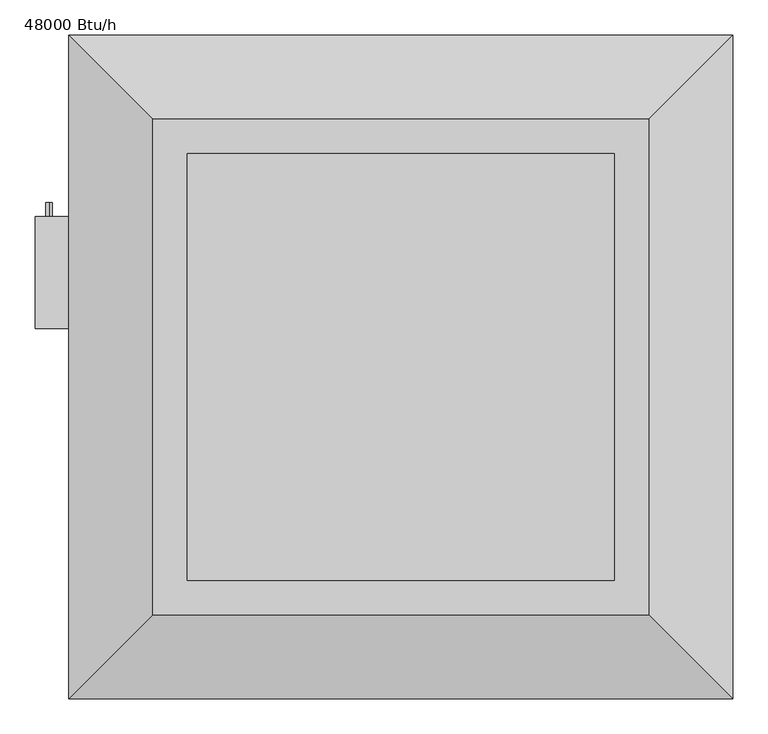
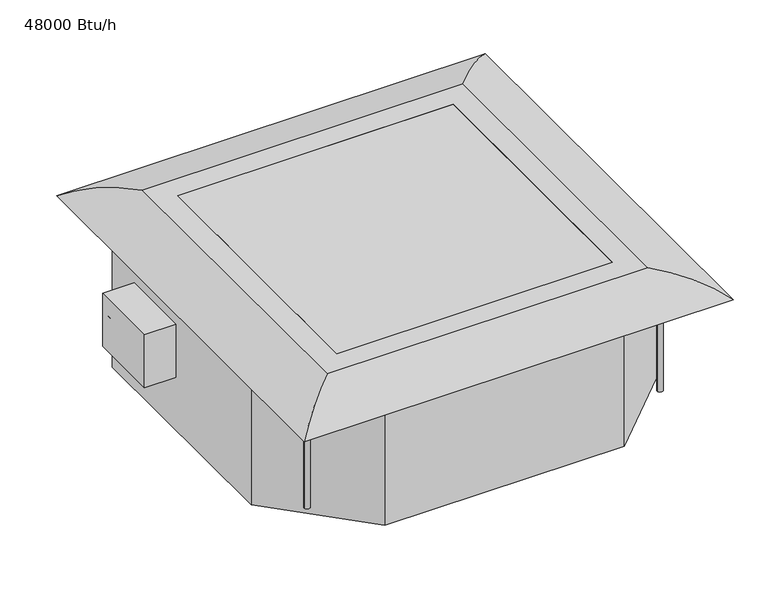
"""IFC4 building model written with IfcOpenShell, lengths in millimetres: proxy geometry, Lennox-VRF-Ceiling_Compact-Cassette-V33A-2P_Series : 48000 Btu/h."""

from ifc_helpers import new_model, si_unit, point, frame, frame_2d, origin, origin_with_axes, place, context, project, spatial, polyline, circle_curve, ellipse_curve, trimmed, segment, composite_curve, outline, extrude, source, transform, mapped, element, save
from ifc_brep_helpers import plane_surface, cylinder_surface, advanced_brep


def proxy_48000_btu_h_e7defc70(model_context):
    return source(origin(), model_context, "Body", "SolidModel", [
        extrude(outline(composite_curve([segment(trimmed(circle_curve(frame_2d((-130.0, -502.5)), 4.7625), [point((-125.2375, -502.5))], [point((-134.7625, -502.5))], False, "CARTESIAN"), True, "CONTINUOUS"), segment(trimmed(circle_curve(frame_2d((-130.0, -502.5)), 4.7625), [point((-134.7625, -502.5))], [point((-125.2375, -502.5))], False, "CARTESIAN"), True, "CONTINUOUS")], self_intersect=False)), frame((0.0, 214.8, 0.0), z_axis=(0.0, 1.0, 0.0), x_axis=(0.0, 0.0, 1.0)), (0.0, 0.0, 1.0), 20.0),
        extrude(outline(polyline([(-522.5, 54.8), (-522.5, 214.8), (-452.5, 214.8), (-452.5, 54.8), (-522.5, 54.8)])), frame((0.0, 0.0, -178.0), z_axis=(0.0, 0.0, 1.0), x_axis=(1.0, 0.0, 0.0)), (0.0, 0.0, 1.0), 124.0),
        extrude(outline(composite_curve([segment(trimmed(circle_curve(frame_2d((0.0, -7.9375)), 7.9375), [point((0.0, -15.875))], [point((0.0, 0.0))], False, "CARTESIAN"), True, "CONTINUOUS"), segment(trimmed(circle_curve(frame_2d((0.0, -7.9375)), 7.9375), [point((0.0, 0.0))], [point((0.0, -15.875))], False, "CARTESIAN"), True, "CONTINUOUS")], self_intersect=False)), frame((-327.841199, 324.97702, -146.0), z_axis=(-0.20791169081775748, 0.9781476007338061, 0.0), x_axis=(0.0, 0.0, -1.0)), (0.0, 0.0, 1.0), 50.0),
        extrude(outline(composite_curve([segment(trimmed(circle_curve(frame_2d((-155.0, 285.5)), 15.875), [point((-155.0, 301.375))], [point((-155.0, 269.625))], False, "CARTESIAN"), True, "CONTINUOUS"), segment(trimmed(circle_curve(frame_2d((-155.0, 285.5)), 15.875), [point((-155.0, 269.625))], [point((-155.0, 301.375))], False, "CARTESIAN"), True, "CONTINUOUS")], self_intersect=False)), frame((0.0, 360.7767013, 0.0), z_axis=(0.0, 1.0, 0.0), x_axis=(0.0, 0.0, 1.0)), (0.0, 0.0, 1.0), 59.7232987),
        advanced_brep(
        [(-384.15, -339.5, -21.0), (-396.85, -339.5, -21.0), (-384.15, -339.5, -264.0), (-396.85, -339.5, -264.0), (-384.15, -339.5, -41.0), (-396.85, -339.5, -41.0), (-396.85, -339.5, -47.35), (-384.15, -339.5, -47.35), (-367.9974747, -369.5, -41.0), (-341.8875034, -343.3900287, -41.0), (-391.3849781, -293.892554, -41.0), (-420.5, -323.007576, -41.0), (-420.5, -339.5, -41.0), (-390.5, -369.5, -41.0), (-367.9974747, -369.5, -47.35), (-390.5, -369.5, -47.35), (-420.5, -339.5, -47.35), (-420.5, -323.007576, -47.35), (-391.3849781, -293.892554, -47.35), (-341.8875034, -343.3900287, -47.35)],
        [
            (0, 1, circle_curve(frame((-390.5, -339.5, -21.0), z_axis=(0.0, 0.0, 1.0), x_axis=(-1.0, 0.0, 0.0)), 6.35)),
            (1, 0, circle_curve(frame((-390.5, -339.5, -21.0), z_axis=(0.0, 0.0, 1.0), x_axis=(-1.0, 0.0, 0.0)), 6.35)),
            (2, 3, circle_curve(frame((-390.5, -339.5, -264.0), z_axis=(0.0, 0.0, -1.0), x_axis=(-1.0, 0.0, 0.0)), 6.35)),
            (3, 2, circle_curve(frame((-390.5, -339.5, -264.0), z_axis=(0.0, 0.0, -1.0), x_axis=(-1.0, 0.0, 0.0)), 6.35)),
            (0, 4),
            (4, 5, circle_curve(frame((-390.5, -339.5, -41.0), z_axis=(0.0, 0.0, 1.0), x_axis=(-1.0, 0.0, 0.0)), 6.35)),
            (5, 1),
            (3, 6),
            (6, 7, circle_curve(frame((-390.5, -339.5, -47.35), z_axis=(0.0, 0.0, -1.0), x_axis=(-1.0, 0.0, 0.0)), 6.35)),
            (7, 2),
            (5, 4, circle_curve(frame((-390.5, -339.5, -41.0), z_axis=(0.0, 0.0, 1.0), x_axis=(-1.0, 0.0, 0.0)), 6.35)),
            (7, 6, circle_curve(frame((-390.5, -339.5, -47.35), z_axis=(0.0, 0.0, -1.0), x_axis=(-1.0, 0.0, 0.0)), 6.35)),
            (8, 9),
            (9, 10),
            (10, 11),
            (11, 12),
            (12, 13),
            (13, 8),
            (14, 15),
            (15, 16),
            (16, 17),
            (17, 18),
            (18, 19),
            (19, 14),
            (8, 14),
            (19, 9),
            (18, 10),
            (17, 11),
            (16, 12),
            (15, 13),
        ],
        [
            plane_surface(frame((-396.85, -339.5, -21.0), z_axis=(0.0, 0.0, 1.0), x_axis=(0.0, -1.0, 0.0))),
            plane_surface(frame((-396.85, -339.5, -264.0), z_axis=(0.0, 0.0, -1.0), x_axis=(0.0, 1.0, 0.0))),
            cylinder_surface(frame((-390.5, -339.5, -264.0), z_axis=(0.0, 0.0, 1.0), x_axis=(-1.0, 0.0, 0.0)), 6.35),
            plane_surface(frame((343.5046828, -342.2177851, -41.0), z_axis=(0.0, 0.0, 1.0), x_axis=(-0.707106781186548, -0.7071067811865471, 0.0))),
            plane_surface(frame((343.5046828, -342.2177851, -47.35), z_axis=(0.0, 0.0, -1.0), x_axis=(0.707106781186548, 0.7071067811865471, 0.0))),
            plane_surface(frame((-367.9974747, -369.5, -41.0), z_axis=(0.7071067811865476, -0.7071067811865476, 0.0), x_axis=(0.0, 0.0, -1.0))),
            plane_surface(frame((-341.8875034, -343.3900287, -41.0), z_axis=(0.7071067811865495, 0.7071067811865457, 0.0), x_axis=(0.0, 0.0, -1.0))),
            plane_surface(frame((-391.3849781, -293.892554, -41.0), z_axis=(-0.7071067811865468, 0.7071067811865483, 0.0), x_axis=(0.0, 0.0, -1.0))),
            plane_surface(frame((-420.5, -323.007576, -41.0), z_axis=(-1.0, 0.0, 0.0), x_axis=(0.0, 0.0, -1.0))),
            plane_surface(frame((-420.5, -339.5, -41.0), z_axis=(-0.7071067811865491, -0.707106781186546, 0.0), x_axis=(0.0, 0.0, -1.0))),
            plane_surface(frame((-390.5, -369.5, -41.0), z_axis=(0.0, -1.0, 0.0), x_axis=(0.0, 0.0, -1.0))),
        ],
        [
            (0, [[1, 2]]),
            (1, [[3, 4]]),
            (2, [[-1, 5, 6, 7]]),
            (2, [[-4, 8, 9, 10]]),
            (2, [[-2, -7, 11, -5]]),
            (2, [[-3, -10, 12, -8]]),
            (3, [[13, 14, 15, 16, 17, 18], [-6, -11]]),
            (4, [[19, 20, 21, 22, 23, 24], [-9, -12]]),
            (5, [[-13, 25, -24, 26]]),
            (6, [[-14, -26, -23, 27]]),
            (7, [[-15, -27, -22, 28]]),
            (8, [[-16, -28, -21, 29]]),
            (9, [[-17, -29, -20, 30]]),
            (10, [[-18, -30, -19, -25]]),
        ],
    ),
        advanced_brep(
        [(396.85, -339.5, -21.0), (384.15, -339.5, -21.0), (396.85, -339.5, -264.0), (384.15, -339.5, -264.0), (396.85, -339.5, -41.0), (384.15, -339.5, -41.0), (384.15, -339.5, -47.35), (396.85, -339.5, -47.35), (393.0021575, -292.7203104, -41.0), (343.5046828, -342.2177851, -41.0), (370.7868978, -369.5, -41.0), (386.933146, -369.5, -41.0), (420.5, -335.933146, -41.0), (420.5, -320.2181529, -41.0), (393.0021575, -292.7203104, -47.35), (420.5, -320.2181529, -47.35), (420.5, -335.933146, -47.35), (386.933146, -369.5, -47.35), (370.7868978, -369.5, -47.35), (343.5046828, -342.2177851, -47.35)],
        [
            (0, 1, circle_curve(frame((390.5, -339.5, -21.0), z_axis=(0.0, 0.0, 1.0), x_axis=(-1.0, 0.0, 0.0)), 6.35)),
            (1, 0, circle_curve(frame((390.5, -339.5, -21.0), z_axis=(0.0, 0.0, 1.0), x_axis=(-1.0, 0.0, 0.0)), 6.35)),
            (2, 3, circle_curve(frame((390.5, -339.5, -264.0), z_axis=(0.0, 0.0, -1.0), x_axis=(-1.0, 0.0, 0.0)), 6.35)),
            (3, 2, circle_curve(frame((390.5, -339.5, -264.0), z_axis=(0.0, 0.0, -1.0), x_axis=(-1.0, 0.0, 0.0)), 6.35)),
            (0, 4),
            (4, 5, circle_curve(frame((390.5, -339.5, -41.0), z_axis=(0.0, 0.0, 1.0), x_axis=(-1.0, 0.0, 0.0)), 6.35)),
            (5, 1),
            (3, 6),
            (6, 7, circle_curve(frame((390.5, -339.5, -47.35), z_axis=(0.0, 0.0, -1.0), x_axis=(-1.0, 0.0, 0.0)), 6.35)),
            (7, 2),
            (5, 4, circle_curve(frame((390.5, -339.5, -41.0), z_axis=(0.0, 0.0, 1.0), x_axis=(-1.0, 0.0, 0.0)), 6.35)),
            (7, 6, circle_curve(frame((390.5, -339.5, -47.35), z_axis=(0.0, 0.0, -1.0), x_axis=(-1.0, 0.0, 0.0)), 6.35)),
            (8, 9),
            (9, 10),
            (10, 11),
            (11, 12),
            (12, 13),
            (13, 8),
            (14, 15),
            (15, 16),
            (16, 17),
            (17, 18),
            (18, 19),
            (19, 14),
            (8, 14),
            (19, 9),
            (18, 10),
            (17, 11),
            (16, 12),
            (15, 13),
        ],
        [
            plane_surface(frame((-396.85, -339.5, -21.0), z_axis=(0.0, 0.0, 1.0), x_axis=(0.0, -1.0, 0.0))),
            plane_surface(frame((-396.85, -339.5, -264.0), z_axis=(0.0, 0.0, -1.0), x_axis=(0.0, 1.0, 0.0))),
            cylinder_surface(frame((390.5, -339.5, -229.0), z_axis=(0.0, 0.0, 1.0), x_axis=(-1.0, 0.0, 0.0)), 6.35),
            plane_surface(frame((343.5046828, -342.2177851, -41.0), z_axis=(0.0, 0.0, 1.0), x_axis=(-0.707106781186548, -0.7071067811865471, 0.0))),
            plane_surface(frame((343.5046828, -342.2177851, -47.35), z_axis=(0.0, 0.0, -1.0), x_axis=(0.707106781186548, 0.7071067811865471, 0.0))),
            plane_surface(frame((393.0021575, -292.7203104, -41.0), z_axis=(-0.7071067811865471, 0.707106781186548, 0.0), x_axis=(0.0, 0.0, -1.0))),
            plane_surface(frame((343.5046828, -342.2177851, -41.0), z_axis=(-0.7071067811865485, -0.7071067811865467, 0.0), x_axis=(0.0, 0.0, -1.0))),
            plane_surface(frame((370.7868978, -369.5, -41.0), z_axis=(0.0, -1.0, 0.0), x_axis=(0.0, 0.0, -1.0))),
            plane_surface(frame((386.933146, -369.5, -41.0), z_axis=(0.7071067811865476, -0.7071067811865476, 0.0), x_axis=(0.0, 0.0, -1.0))),
            plane_surface(frame((420.5, -335.933146, -41.0), z_axis=(1.0, 0.0, 0.0), x_axis=(0.0, 0.0, -1.0))),
            plane_surface(frame((420.5, -320.2181529, -41.0), z_axis=(0.7071067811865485, 0.7071067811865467, 0.0), x_axis=(0.0, 0.0, -1.0))),
        ],
        [
            (0, [[1, 2]]),
            (1, [[3, 4]]),
            (2, [[-1, 5, 6, 7]]),
            (2, [[-4, 8, 9, 10]]),
            (2, [[-2, -7, 11, -5]]),
            (2, [[-3, -10, 12, -8]]),
            (3, [[13, 14, 15, 16, 17, 18], [-6, -11]]),
            (4, [[19, 20, 21, 22, 23, 24], [-9, -12]]),
            (5, [[-13, 25, -24, 26]]),
            (6, [[-14, -26, -23, 27]]),
            (7, [[-15, -27, -22, 28]]),
            (8, [[-16, -28, -21, 29]]),
            (9, [[-17, -29, -20, 30]]),
            (10, [[-18, -30, -19, -25]]),
        ],
    ),
        advanced_brep(
        [(396.85, 339.5, -21.0), (384.15, 339.5, -21.0), (396.85, 339.5, -264.0), (384.15, 339.5, -264.0), (396.85, 339.5, -41.0), (384.15, 339.5, -41.0), (384.15, 339.5, -47.35), (396.85, 339.5, -47.35), (344.3279755, 342.8254501, -41.0), (393.8254501, 293.3279755, -41.0), (420.5, 320.0025253, -41.0), (420.5, 339.5, -41.0), (390.5, 369.5, -41.0), (371.0025253, 369.5, -41.0), (344.3279755, 342.8254501, -47.35), (371.0025253, 369.5, -47.35), (390.5, 369.5, -47.35), (420.5, 339.5, -47.35), (420.5, 320.0025253, -47.35), (393.8254501, 293.3279755, -47.35)],
        [
            (0, 1, circle_curve(frame((390.5, 339.5, -21.0), z_axis=(0.0, 0.0, 1.0), x_axis=(-1.0, 0.0, 0.0)), 6.35)),
            (1, 0, circle_curve(frame((390.5, 339.5, -21.0), z_axis=(0.0, 0.0, 1.0), x_axis=(-1.0, 0.0, 0.0)), 6.35)),
            (2, 3, circle_curve(frame((390.5, 339.5, -264.0), z_axis=(0.0, 0.0, -1.0), x_axis=(-1.0, 0.0, 0.0)), 6.35)),
            (3, 2, circle_curve(frame((390.5, 339.5, -264.0), z_axis=(0.0, 0.0, -1.0), x_axis=(-1.0, 0.0, 0.0)), 6.35)),
            (0, 4),
            (4, 5, circle_curve(frame((390.5, 339.5, -41.0), z_axis=(0.0, 0.0, 1.0), x_axis=(-1.0, 0.0, 0.0)), 6.35)),
            (5, 1),
            (3, 6),
            (6, 7, circle_curve(frame((390.5, 339.5, -47.35), z_axis=(0.0, 0.0, -1.0), x_axis=(-1.0, 0.0, 0.0)), 6.35)),
            (7, 2),
            (5, 4, circle_curve(frame((390.5, 339.5, -41.0), z_axis=(0.0, 0.0, 1.0), x_axis=(-1.0, 0.0, 0.0)), 6.35)),
            (7, 6, circle_curve(frame((390.5, 339.5, -47.35), z_axis=(0.0, 0.0, -1.0), x_axis=(-1.0, 0.0, 0.0)), 6.35)),
            (8, 9),
            (9, 10),
            (10, 11),
            (11, 12),
            (12, 13),
            (13, 8),
            (14, 15),
            (15, 16),
            (16, 17),
            (17, 18),
            (18, 19),
            (19, 14),
            (8, 14),
            (19, 9),
            (18, 10),
            (17, 11),
            (16, 12),
            (15, 13),
        ],
        [
            plane_surface(frame((-396.85, -339.5, -21.0), z_axis=(0.0, 0.0, 1.0), x_axis=(0.0, -1.0, 0.0))),
            plane_surface(frame((-396.85, -339.5, -264.0), z_axis=(0.0, 0.0, -1.0), x_axis=(0.0, 1.0, 0.0))),
            cylinder_surface(frame((390.5, 339.5, -229.0), z_axis=(0.0, 0.0, 1.0), x_axis=(-1.0, 0.0, 0.0)), 6.35),
            plane_surface(frame((343.5046828, -342.2177851, -41.0), z_axis=(0.0, 0.0, 1.0), x_axis=(-0.707106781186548, -0.7071067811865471, 0.0))),
            plane_surface(frame((343.5046828, -342.2177851, -47.35), z_axis=(0.0, 0.0, -1.0), x_axis=(0.707106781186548, 0.7071067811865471, 0.0))),
            plane_surface(frame((344.3279755, 342.8254501, -41.0), z_axis=(-0.707106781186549, -0.7071067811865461, 0.0), x_axis=(0.0, 0.0, -1.0))),
            plane_surface(frame((393.8254501, 293.3279755, -41.0), z_axis=(0.7071067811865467, -0.7071067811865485, 0.0), x_axis=(0.0, 0.0, -1.0))),
            plane_surface(frame((420.5, 320.0025253, -41.0), z_axis=(1.0, 0.0, 0.0), x_axis=(0.0, 0.0, -1.0))),
            plane_surface(frame((420.5, 339.5, -41.0), z_axis=(0.7071067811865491, 0.7071067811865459, 0.0), x_axis=(0.0, 0.0, -1.0))),
            plane_surface(frame((390.5, 369.5, -41.0), z_axis=(0.0, 1.0, 0.0), x_axis=(0.0, 0.0, -1.0))),
            plane_surface(frame((371.0025253, 369.5, -41.0), z_axis=(-0.7071067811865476, 0.7071067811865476, 0.0), x_axis=(0.0, 0.0, -1.0))),
        ],
        [
            (0, [[1, 2]]),
            (1, [[3, 4]]),
            (2, [[-1, 5, 6, 7]]),
            (2, [[-4, 8, 9, 10]]),
            (2, [[-2, -7, 11, -5]]),
            (2, [[-3, -10, 12, -8]]),
            (3, [[13, 14, 15, 16, 17, 18], [-6, -11]]),
            (4, [[19, 20, 21, 22, 23, 24], [-9, -12]]),
            (5, [[-13, 25, -24, 26]]),
            (6, [[-14, -26, -23, 27]]),
            (7, [[-15, -27, -22, 28]]),
            (8, [[-16, -28, -21, 29]]),
            (9, [[-17, -29, -20, 30]]),
            (10, [[-18, -30, -19, -25]]),
        ],
    ),
        advanced_brep(
        [(-384.15, 339.5, -21.0), (-396.85, 339.5, -21.0), (-384.15, 339.5, -264.0), (-396.85, 339.5, -264.0), (-384.15, 339.5, -41.0), (-396.85, 339.5, -41.0), (-396.85, 339.5, -47.35), (-384.15, 339.5, -47.35), (-420.5, 356.3988136, -41.0), (-420.5, 305.2817838, -41.0), (-348.147749, 320.6607295, -41.0), (-355.2974559, 354.2974559, -41.0), (-368.460212, 367.460212, -41.0), (-420.5, 356.3988136, -47.35), (-368.460212, 367.460212, -47.35), (-355.2974559, 354.2974559, -47.35), (-348.147749, 320.6607295, -47.35), (-420.5, 305.2817838, -47.35)],
        [
            (0, 1, circle_curve(frame((-390.5, 339.5, -21.0), z_axis=(0.0, 0.0, 1.0), x_axis=(-1.0, 0.0, 0.0)), 6.35)),
            (1, 0, circle_curve(frame((-390.5, 339.5, -21.0), z_axis=(0.0, 0.0, 1.0), x_axis=(-1.0, 0.0, 0.0)), 6.35)),
            (2, 3, circle_curve(frame((-390.5, 339.5, -264.0), z_axis=(0.0, 0.0, -1.0), x_axis=(-1.0, 0.0, 0.0)), 6.35)),
            (3, 2, circle_curve(frame((-390.5, 339.5, -264.0), z_axis=(0.0, 0.0, -1.0), x_axis=(-1.0, 0.0, 0.0)), 6.35)),
            (0, 4),
            (4, 5, circle_curve(frame((-390.5, 339.5, -41.0), z_axis=(0.0, 0.0, 1.0), x_axis=(-1.0, 0.0, 0.0)), 6.35)),
            (5, 1),
            (3, 6),
            (6, 7, circle_curve(frame((-390.5, 339.5, -47.35), z_axis=(0.0, 0.0, -1.0), x_axis=(-1.0, 0.0, 0.0)), 6.35)),
            (7, 2),
            (5, 4, circle_curve(frame((-390.5, 339.5, -41.0), z_axis=(0.0, 0.0, 1.0), x_axis=(-1.0, 0.0, 0.0)), 6.35)),
            (7, 6, circle_curve(frame((-390.5, 339.5, -47.35), z_axis=(0.0, 0.0, -1.0), x_axis=(-1.0, 0.0, 0.0)), 6.35)),
            (8, 9),
            (9, 10),
            (10, 11),
            (11, 12),
            (12, 8),
            (13, 14),
            (14, 15),
            (15, 16),
            (16, 17),
            (17, 13),
            (8, 13),
            (17, 9),
            (16, 10),
            (15, 11),
            (14, 12),
        ],
        [
            plane_surface(frame((-396.85, -339.5, -21.0), z_axis=(0.0, 0.0, 1.0), x_axis=(0.0, -1.0, 0.0))),
            plane_surface(frame((-396.85, -339.5, -264.0), z_axis=(0.0, 0.0, -1.0), x_axis=(0.0, 1.0, 0.0))),
            cylinder_surface(frame((-390.5, 339.5, -229.0), z_axis=(0.0, 0.0, 1.0), x_axis=(-1.0, 0.0, 0.0)), 6.35),
            plane_surface(frame((343.5046828, -342.2177851, -41.0), z_axis=(0.0, 0.0, 1.0), x_axis=(-0.707106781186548, -0.7071067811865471, 0.0))),
            plane_surface(frame((343.5046828, -342.2177851, -47.35), z_axis=(0.0, 0.0, -1.0), x_axis=(0.707106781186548, 0.7071067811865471, 0.0))),
            plane_surface(frame((-420.5, 356.3988136, -41.0), z_axis=(-1.0, 0.0, 0.0), x_axis=(0.0, 0.0, -1.0))),
            plane_surface(frame((-420.5, 305.2817838, -41.0), z_axis=(0.2079116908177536, -0.9781476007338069, 0.0), x_axis=(0.0, 0.0, -1.0))),
            plane_surface(frame((-348.147749, 320.6607295, -41.0), z_axis=(0.9781476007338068, 0.20791169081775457, 0.0), x_axis=(0.0, 0.0, -1.0))),
            plane_surface(frame((-355.2974559, 354.2974559, -41.0), z_axis=(0.7071067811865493, 0.7071067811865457, 0.0), x_axis=(0.0, 0.0, -1.0))),
            plane_surface(frame((-368.460212, 367.460212, -41.0), z_axis=(-0.20791169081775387, 0.9781476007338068, 0.0), x_axis=(0.0, 0.0, -1.0))),
        ],
        [
            (0, [[1, 2]]),
            (1, [[3, 4]]),
            (2, [[-1, 5, 6, 7]]),
            (2, [[-4, 8, 9, 10]]),
            (2, [[-2, -7, 11, -5]]),
            (2, [[-3, -10, 12, -8]]),
            (3, [[13, 14, 15, 16, 17], [-6, -11]]),
            (4, [[18, 19, 20, 21, 22], [-9, -12]]),
            (5, [[-13, 23, -22, 24]]),
            (6, [[-14, -24, -21, 25]]),
            (7, [[-15, -25, -20, 26]]),
            (8, [[-16, -26, -19, 27]]),
            (9, [[-17, -27, -18, -23]]),
        ],
    ),
        extrude(outline(polyline([(-178.942494, 420.5), (206.5140403, 420.5), (246.3767243, 360.7767013), (326.3767243, 360.7767013), (452.5, 234.6534256), (452.5, -233.2224679), (265.2224679, -420.5), (-264.7775321, -420.5), (-452.5, -232.7775321), (-452.5, 298.4799738), (-217.7811876, 348.3709976), (-178.942494, 420.5)])), frame((0.0, 0.0, -302.0), z_axis=(0.0, 0.0, 1.0), x_axis=(1.0, 0.0, 0.0)), (0.0, 0.0, 1.0), 302.0),
        advanced_brep(
        [(-304.8, 304.8, 0.0), (-304.8, 304.8, 44.0), (-304.8, -304.8, 44.0), (-304.8, -304.8, 0.0), (-354.8, 354.8, 44.0), (-474.5, 474.5, 0.0), (-474.5, -474.5, 0.0), (-354.8, -354.8, 44.0), (304.8, -304.8, 44.0), (304.8, -304.8, 0.0), (474.5, -474.5, 0.0), (354.8, -354.8, 44.0), (304.8, 304.8, 44.0), (304.8, 304.8, 0.0), (474.5, 474.5, 0.0), (354.8, 354.8, 44.0)],
        [
            (0, 1),
            (1, 2),
            (2, 3),
            (3, 0),
            (4, 5, ellipse_curve(frame((-354.8, 354.8, -140.8192045), z_axis=(-0.7071067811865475, -0.7071067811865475, 0.0), x_axis=(-0.7071067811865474, 0.7071067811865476, 0.0)), 261.3738257, 184.8192045)),
            (5, 6),
            (6, 7, ellipse_curve(frame((-354.8, -354.8, -140.8192045), z_axis=(-0.7071067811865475, 0.7071067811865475, 0.0), x_axis=(0.7071067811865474, 0.7071067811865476, 0.0)), 261.3738257, 184.8192045)),
            (7, 4),
            (2, 8),
            (8, 9),
            (9, 3),
            (6, 10),
            (10, 11, ellipse_curve(frame((354.8, -354.8, -140.8192045), z_axis=(-0.7071067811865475, -0.7071067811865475, 0.0), x_axis=(-0.7071067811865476, 0.7071067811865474, 0.0)), 261.3738257, 184.8192045)),
            (11, 7),
            (8, 12),
            (12, 13),
            (13, 9),
            (10, 14),
            (14, 15, ellipse_curve(frame((354.8, 354.8, -140.8192045), z_axis=(0.7071067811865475, -0.7071067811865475, 0.0), x_axis=(-0.7071067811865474, -0.7071067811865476, 0.0)), 261.3738257, 184.8192045)),
            (15, 11),
            (12, 1),
            (0, 13),
            (5, 14),
            (4, 15),
        ],
        [
            plane_surface(frame((-304.8, 304.8, 44.0), z_axis=(1.0, 0.0, 0.0), x_axis=(0.0, -1.0, 0.0))),
            cylinder_surface(frame((-354.8, 304.8, -140.8192045), z_axis=(0.0, 1.0, 0.0), x_axis=(1.0, 0.0, 0.0)), 184.8192045),
            plane_surface(frame((-304.8, -304.8, 44.0), z_axis=(0.0, 1.0, 0.0), x_axis=(1.0, 0.0, 0.0))),
            cylinder_surface(frame((-304.8, -354.8, -140.8192045), z_axis=(-1.0, 0.0, 0.0), x_axis=(0.0, 1.0, 0.0)), 184.8192045),
            plane_surface(frame((304.8, -304.8, 44.0), z_axis=(-1.0, 0.0, 0.0), x_axis=(0.0, 1.0, 0.0))),
            cylinder_surface(frame((354.8, -304.8, -140.8192045), z_axis=(0.0, -1.0, 0.0), x_axis=(-1.0, 0.0, 0.0)), 184.8192045),
            plane_surface(frame((304.8, 304.8, 44.0), z_axis=(0.0, -1.0, 0.0), x_axis=(-1.0, 0.0, 0.0))),
            plane_surface(frame((304.8, 304.8, 0.0), z_axis=(0.0, 0.0, -1.0), x_axis=(-1.0, 0.0, 0.0))),
            cylinder_surface(frame((304.8, 354.8, -140.8192045), z_axis=(1.0, 0.0, 0.0), x_axis=(0.0, -1.0, 0.0)), 184.8192045),
            plane_surface(frame((354.8, 354.8, 44.0), z_axis=(0.0, 0.0, 1.0), x_axis=(-1.0, 0.0, 0.0))),
        ],
        [
            (0, [[1, 2, 3, 4]]),
            (1, [[5, 6, 7, 8]]),
            (2, [[-3, 9, 10, 11]]),
            (3, [[-7, 12, 13, 14]]),
            (4, [[-10, 15, 16, 17]]),
            (5, [[-13, 18, 19, 20]]),
            (6, [[-16, 21, -1, 22]]),
            (7, [[23, -18, -12, -6], [-11, -17, -22, -4]]),
            (8, [[-19, -23, -5, 24]]),
            (9, [[-14, -20, -24, -8], [-21, -15, -9, -2]]),
        ],
    ),
        extrude(outline(polyline([(304.8, 304.8), (304.8, -304.8), (-304.8, -304.8), (-304.8, 304.8), (304.8, 304.8)])), origin_with_axes(), (0.0, 0.0, 1.0), 44.0),
    ])


if __name__ == "__main__":
    model = new_model("IFC4")
    model_context = context("Model", 3, world=origin())
    ifc_project = project(units=[si_unit("LENGTHUNIT", "METRE", prefix="MILLI")], contexts=[model_context])
    site = spatial("IfcSite", under=ifc_project)
    building = spatial("IfcBuilding", under=site)
    placement = place(None, origin())
    proxy_48000_btu_h_shape = proxy_48000_btu_h_e7defc70(model_context)
    element("IfcBuildingElementProxy", 1, Name="Lennox-VRF-Ceiling_Compact-Cassette-V33A-2P_Series : 48000 Btu/h", ObjectType="Lennox-VRF-Ceiling_Compact-Cassette-V33A-2P_Series : 48000 Btu/h", at=placement, inside=building, context=model_context, shape_type="MappedRepresentation", body=[
        mapped(proxy_48000_btu_h_shape, transform((0.0, 0.0, 0.0), x_axis=(1.0, 0.0, 0.0), y_axis=(0.0, 1.0, 0.0), z_axis=(0.0, 0.0, 1.0))),
    ])
    save(model, "model.ifc")
